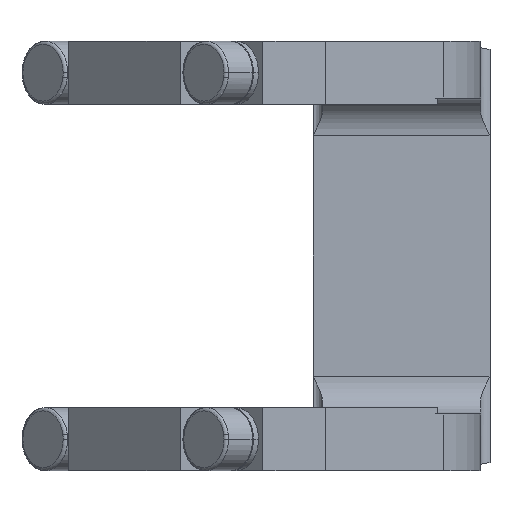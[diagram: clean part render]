
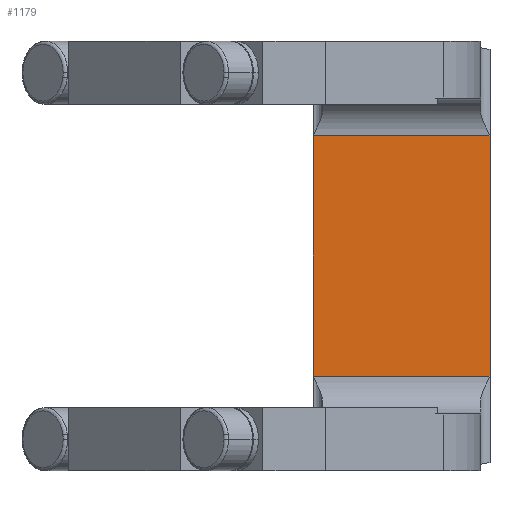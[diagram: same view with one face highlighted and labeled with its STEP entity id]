
A CAD part, front view. The second image highlights one B-rep face of the part: STEP entity #1179.
In plain terms, the highlighted planar face has unit normal (0, -1, 0).
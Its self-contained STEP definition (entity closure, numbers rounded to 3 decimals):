
#720=CARTESIAN_POINT('Vertex',(15.,80.,19.)) ;
#723=CARTESIAN_POINT('Line Origine',(-2.5,80.,19.)) ;
#727=CARTESIAN_POINT('Vertex',(43.,80.,19.)) ;
#1149=CARTESIAN_POINT('Axis2P3D Location',(43.,80.,19.)) ;
#1154=CARTESIAN_POINT('Line Origine',(15.,80.,0.)) ;
#1158=CARTESIAN_POINT('Vertex',(15.,80.,-19.)) ;
#1161=CARTESIAN_POINT('Line Origine',(29.,80.,-19.)) ;
#1165=CARTESIAN_POINT('Vertex',(43.,80.,-19.)) ;
#1168=CARTESIAN_POINT('Line Origine',(43.,80.,0.)) ;
#724=DIRECTION('Vector Direction',(1.,0.,0.)) ;
#1150=DIRECTION('Axis2P3D Direction',(0.,1.,0.)) ;
#1151=DIRECTION('Axis2P3D XDirection',(0.,0.,-1.)) ;
#1155=DIRECTION('Vector Direction',(0.,0.,-1.)) ;
#1162=DIRECTION('Vector Direction',(-1.,0.,0.)) ;
#1169=DIRECTION('Vector Direction',(0.,0.,-1.)) ;
#1152=AXIS2_PLACEMENT_3D('Plane Axis2P3D',#1149,#1150,#1151) ;
#1174=ORIENTED_EDGE('',*,*,#1160,.F.) ;
#1175=ORIENTED_EDGE('',*,*,#1167,.F.) ;
#1176=ORIENTED_EDGE('',*,*,#1172,.T.) ;
#1177=ORIENTED_EDGE('',*,*,#729,.T.) ;
#725=VECTOR('Line Direction',#724,1.) ;
#1156=VECTOR('Line Direction',#1155,1.) ;
#1163=VECTOR('Line Direction',#1162,1.) ;
#1170=VECTOR('Line Direction',#1169,1.) ;
#1179=ADVANCED_FACE('Brep With Voids',(#1178),#1153,.F.) ;
#729=EDGE_CURVE('',#728,#721,#726,.F.) ;
#1160=EDGE_CURVE('',#1159,#721,#1157,.F.) ;
#1167=EDGE_CURVE('',#1166,#1159,#1164,.T.) ;
#1172=EDGE_CURVE('',#1166,#728,#1171,.F.) ;
#1173=EDGE_LOOP('',(#1174,#1175,#1176,#1177)) ;
#1178=FACE_OUTER_BOUND('',#1173,.T.) ;
#726=LINE('Line',#723,#725) ;
#1157=LINE('Line',#1154,#1156) ;
#1164=LINE('Line',#1161,#1163) ;
#1171=LINE('Line',#1168,#1170) ;
#1153=PLANE('Plane',#1152) ;
#721=VERTEX_POINT('',#720) ;
#728=VERTEX_POINT('',#727) ;
#1159=VERTEX_POINT('',#1158) ;
#1166=VERTEX_POINT('',#1165) ;
